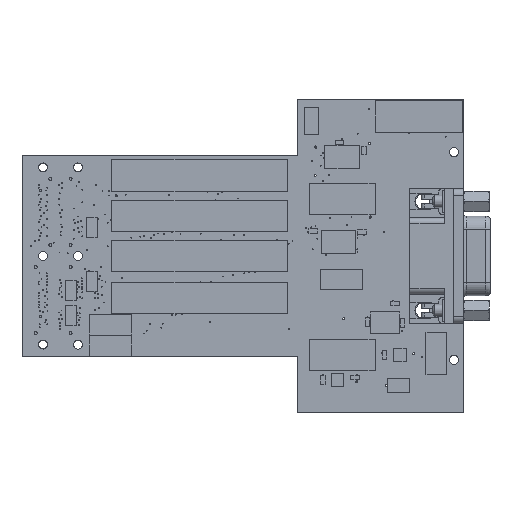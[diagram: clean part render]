
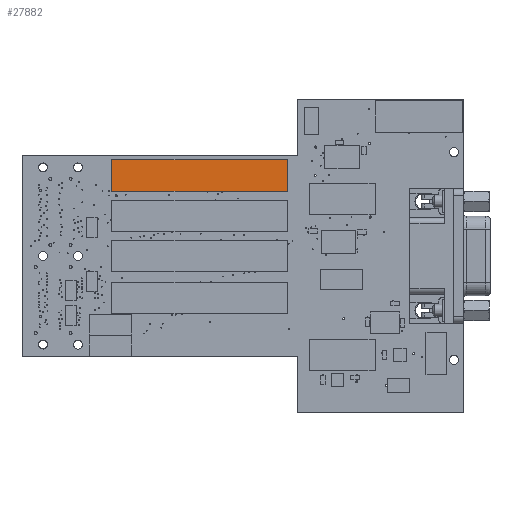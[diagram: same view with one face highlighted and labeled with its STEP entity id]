
A CAD part, top view. The second image highlights one B-rep face of the part: STEP entity #27882.
In plain terms, the highlighted planar face has unit normal (0, 0, 1).
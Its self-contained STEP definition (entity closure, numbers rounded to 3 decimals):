
#27831 = EDGE_CURVE ( 'NONE', #27837, #27842, #59675, .T. ) ;
#27832 = VERTEX_POINT ( 'NONE', #59825 ) ;
#27837 = VERTEX_POINT ( 'NONE', #59818 ) ;
#27841 = EDGE_CURVE ( 'NONE', #27961, #27837, #59816, .T. ) ;
#27842 = VERTEX_POINT ( 'NONE', #59809 ) ;
#27882 = ADVANCED_FACE ( 'NONE', ( #59867 ), #59861, .T. ) ;
#27884 = ORIENTED_EDGE ( 'NONE', *, *, #28056, .T. ) ;
#27886 = ORIENTED_EDGE ( 'NONE', *, *, #28264, .T. ) ;
#27961 = VERTEX_POINT ( 'NONE', #59921 ) ;
#28054 = EDGE_LOOP ( 'NONE', ( #28263, #28190, #27884, #27886 ) ) ;
#28056 = EDGE_CURVE ( 'NONE', #27842, #27832, #60293, .T. ) ;
#28190 = ORIENTED_EDGE ( 'NONE', *, *, #27831, .T. ) ;
#28263 = ORIENTED_EDGE ( 'NONE', *, *, #27841, .T. ) ;
#28264 = EDGE_CURVE ( 'NONE', #27832, #27961, #60399, .T. ) ;
#59675 = LINE ( 'NONE', #59822, #59821 ) ;
#59809 = CARTESIAN_POINT ( 'NONE',  ( 60.826, 37.98, 5.515 ) ) ;
#59810 = DIRECTION ( 'NONE',  ( 0., -1., 0. ) ) ;
#59811 = VECTOR ( 'NONE', #59810, 1000. ) ;
#59816 = LINE ( 'NONE', #59819, #59811 ) ;
#59818 = CARTESIAN_POINT ( 'NONE',  ( 20.606, 37.98, 5.515 ) ) ;
#59819 = CARTESIAN_POINT ( 'NONE',  ( 20.606, 45.18, 5.515 ) ) ;
#59820 = DIRECTION ( 'NONE',  ( 1., 0., 0. ) ) ;
#59821 = VECTOR ( 'NONE', #59820, 1000. ) ;
#59822 = CARTESIAN_POINT ( 'NONE',  ( 20.606, 37.98, 5.515 ) ) ;
#59825 = CARTESIAN_POINT ( 'NONE',  ( 60.826, 45.18, 5.515 ) ) ;
#59861 = PLANE ( 'NONE',  #59864 ) ;
#59864 = AXIS2_PLACEMENT_3D ( 'NONE', #60014, #60013, #60012 ) ;
#59867 = FACE_OUTER_BOUND ( 'NONE', #28054, .T. ) ;
#59921 = CARTESIAN_POINT ( 'NONE',  ( 20.606, 45.18, 5.515 ) ) ;
#60012 = DIRECTION ( 'NONE',  ( 1., 0., 0. ) ) ;
#60013 = DIRECTION ( 'NONE',  ( 0., 0., 1. ) ) ;
#60014 = CARTESIAN_POINT ( 'NONE',  ( 20.606, 37.98, 5.515 ) ) ;
#60290 = DIRECTION ( 'NONE',  ( 0., 1., 0. ) ) ;
#60291 = VECTOR ( 'NONE', #60290, 1000. ) ;
#60292 = CARTESIAN_POINT ( 'NONE',  ( 60.826, 37.98, 5.515 ) ) ;
#60293 = LINE ( 'NONE', #60292, #60291 ) ;
#60399 = LINE ( 'NONE', #60481, #60480 ) ;
#60479 = DIRECTION ( 'NONE',  ( -1., 0., 0. ) ) ;
#60480 = VECTOR ( 'NONE', #60479, 1000. ) ;
#60481 = CARTESIAN_POINT ( 'NONE',  ( 60.826, 45.18, 5.515 ) ) ;
